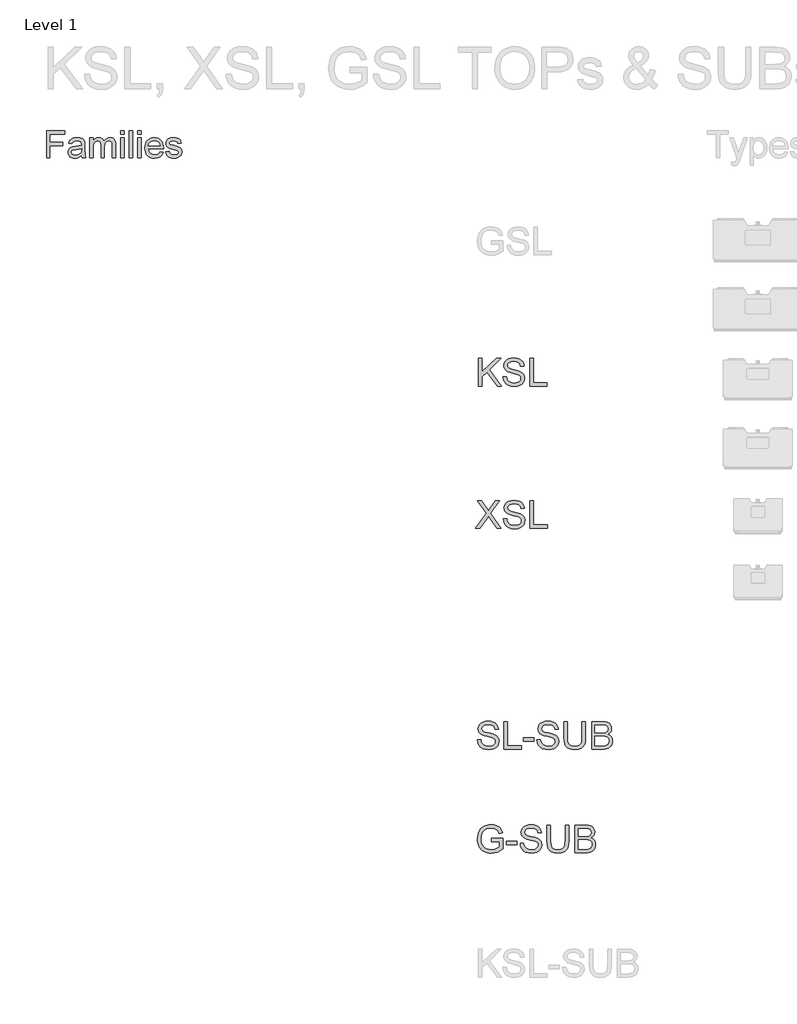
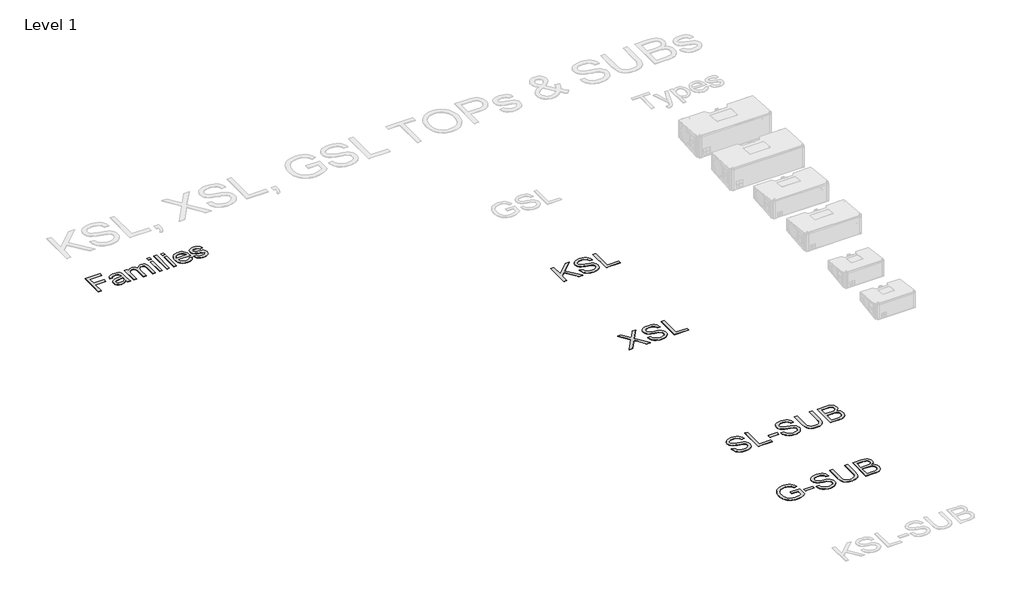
# One storey, part 45 of 52: 5 proxies.
"""IFC4 building model written with IfcOpenShell, lengths in millimetres."""

from ifc_helpers import new_model, si_unit, origin, origin_with_axes, place, context, project, spatial, polyline, outline, extrude, element, save

model = new_model("IFC4")

# Units and contexts
model_context = context("Model", 3, world=origin())
ifc_project = project(units=[si_unit("LENGTHUNIT", "METRE", prefix="MILLI")], contexts=[model_context])

# Site, building, storey
site = spatial("IfcSite", under=ifc_project)
building = spatial("IfcBuilding", under=site)
storey = spatial("IfcBuildingStorey", under=building, Name="Level 1", Elevation=0.0)

# Proxies
placement = place(None, origin())
element("IfcBuildingElementProxy", 1, Name="400mm Arial", ObjectType="400mm Arial", at=placement, inside=storey, context=model_context, shape_type="SweptSolid", body=[
    extrude(outline(polyline([(-21056.720891, 17351.3054836), (-21056.720891, 17743.0630593), (-20793.5087698, 17743.0630593), (-20793.5087698, 17694.0933624), (-21007.7511941, 17694.0933624), (-21007.7511941, 17577.7903321), (-20824.1148304, 17577.7903321), (-20824.1148304, 17528.8206351), (-21007.7511941, 17528.8206351), (-21007.7511941, 17351.3054836), (-21056.720891, 17351.3054836)])), origin_with_axes(), (0.0, 0.0, 1.0), 5.0),
    extrude(outline(polyline([(-20548.660285, 17388.0327563), (-20572.0571836, 17367.97144), (-20596.1475009, 17354.8443093), (-20621.4811893, 17347.5992809), (-20648.6082016, 17345.1842715), (-20670.4120309, 17346.6368638), (-20689.5318522, 17350.9946408), (-20705.9676654, 17358.2576024), (-20719.7194706, 17368.4257487), (-20730.5780466, 17380.8534831), (-20738.3341723, 17394.895209), (-20742.9878477, 17410.5509263), (-20744.5390729, 17427.8206351), (-20742.1957963, 17448.1210612), (-20735.1659668, 17466.5564305), (-20724.3223352, 17482.3376805), (-20710.5376524, 17494.6757487), (-20676.2493001, 17510.7439305), (-20633.879035, 17518.1085139), (-20583.8094327, 17525.855673), (-20548.9472168, 17534.9418472), (-20548.660285, 17545.8452563), (-20552.0317338, 17567.6998965), (-20562.1460804, 17581.9986654), (-20584.7658721, 17592.6151427), (-20616.2805501, 17596.1539684), (-20645.4519516, 17593.7987364), (-20665.8241107, 17586.7330404), (-20679.7163929, 17573.6656872), (-20689.4481638, 17553.3054836), (-20738.4178607, 17559.4266957), (-20729.9175056, 17586.2069987), (-20717.2327282, 17607.2486654), (-20699.1799346, 17623.3407582), (-20674.5755312, 17635.2723396), (-20644.4835568, 17642.660834), (-20609.9680501, 17645.1236654), (-20576.8632916, 17642.9477658), (-20550.6209857, 17636.4200669), (-20530.8346458, 17626.6046076), (-20517.097785, 17614.5654268), (-20507.9876997, 17599.6808387), (-20502.0816865, 17581.3291578), (-20499.690588, 17538.480673), (-20499.690588, 17477.5554836), (-20497.2038456, 17392.4801995), (-20487.4481638, 17351.3054836), (-20536.4178607, 17351.3054836), (-20544.2606638, 17368.3301048), (-20548.660285, 17388.0327563)]), holes=[polyline([(-20548.660285, 17485.9721502), (-20581.5618001, 17477.8185044), (-20627.6621789, 17470.9560518), (-20669.7933342, 17463.0176048), (-20680.7565208, 17457.5898112), (-20688.8743001, 17450.105673), (-20693.8956069, 17441.1390536), (-20695.5693759, 17431.2638169), (-20691.9229507, 17416.7020271), (-20680.9836751, 17404.7704457), (-20662.990659, 17396.8080877), (-20638.1830122, 17394.1539684), (-20611.8809289, 17397.0830641), (-20588.6394516, 17405.870351), (-20569.7975956, 17418.8181493), (-20556.6943759, 17434.228779), (-20550.8840066, 17450.105673), (-20548.9472168, 17472.103779), (-20548.660285, 17485.9721502)])]), origin_with_axes(), (0.0, 0.0, 1.0), 5.0),
    extrude(outline(polyline([(-20432.3572547, 17351.3054836), (-20432.3572547, 17639.0024533), (-20383.3875577, 17639.0024533), (-20383.3875577, 17591.6587033), (-20368.658391, 17613.405744), (-20349.720891, 17630.4423207), (-20327.2206543, 17641.4533292), (-20301.8032774, 17645.1236654), (-20274.5686657, 17641.3815963), (-20252.7379365, 17630.1553889), (-20236.4306448, 17612.1862838), (-20225.7663456, 17588.2155215), (-20207.9167954, 17613.1128344), (-20187.5565918, 17630.8966294), (-20164.6857348, 17641.5669064), (-20139.3042244, 17645.1236654), (-20119.7002057, 17643.6441732), (-20102.4932632, 17639.2056966), (-20087.683397, 17631.8082357), (-20075.2706069, 17621.4517904), (-20065.4581365, 17608.0168058), (-20058.4492291, 17591.3837269), (-20054.2438846, 17571.5525539), (-20052.8421032, 17548.5232866), (-20052.8421032, 17351.3054836), (-20101.8118001, 17351.3054836), (-20101.8118001, 17527.4816199), (-20106.3548872, 17568.369404), (-20112.7391202, 17579.6434334), (-20122.8056448, 17588.5024533), (-20135.7534431, 17594.2410896), (-20150.7814971, 17596.1539684), (-20177.3107348, 17591.2522165), (-20198.9382206, 17576.5469608), (-20207.3279874, 17565.2669537), (-20213.320678, 17551.03394), (-20218.1148304, 17513.7088927), (-20218.1148304, 17351.3054836), (-20267.0845274, 17351.3054836), (-20267.0845274, 17532.9333245), (-20269.9179791, 17560.6222449), (-20278.4183342, 17580.3727184), (-20293.3746552, 17592.2086559), (-20315.5760047, 17596.1539684), (-20334.4417717, 17593.5237601), (-20351.8250577, 17585.6331351), (-20366.1716486, 17572.6733813), (-20375.9273304, 17554.8357866), (-20381.5225009, 17530.0879173), (-20383.3875577, 17496.3973396), (-20383.3875577, 17351.3054836), (-20432.3572547, 17351.3054836)])), origin_with_axes(), (0.0, 0.0, 1.0), 5.0),
    extrude(outline(polyline([(-19979.3875577, 17351.3054836), (-19979.3875577, 17639.0024533), (-19930.4178607, 17639.0024533), (-19930.4178607, 17351.3054836), (-19979.3875577, 17351.3054836)])), origin_with_axes(), (0.0, 0.0, 1.0), 5.0),
    extrude(outline(polyline([(-19979.3875577, 17694.0933624), (-19979.3875577, 17743.0630593), (-19930.4178607, 17743.0630593), (-19930.4178607, 17694.0933624), (-19979.3875577, 17694.0933624)])), origin_with_axes(), (0.0, 0.0, 1.0), 5.0),
    extrude(outline(polyline([(-19856.9633153, 17351.3054836), (-19856.9633153, 17743.0630593), (-19807.9936183, 17743.0630593), (-19807.9936183, 17351.3054836), (-19856.9633153, 17351.3054836)])), origin_with_axes(), (0.0, 0.0, 1.0), 5.0),
    extrude(outline(polyline([(-19734.5390729, 17351.3054836), (-19734.5390729, 17639.0024533), (-19685.5693759, 17639.0024533), (-19685.5693759, 17351.3054836), (-19734.5390729, 17351.3054836)])), origin_with_axes(), (0.0, 0.0, 1.0), 5.0),
    extrude(outline(polyline([(-19734.5390729, 17694.0933624), (-19734.5390729, 17743.0630593), (-19685.5693759, 17743.0630593), (-19685.5693759, 17694.0933624), (-19734.5390729, 17694.0933624)])), origin_with_axes(), (0.0, 0.0, 1.0), 5.0),
    extrude(outline(polyline([(-19410.6886941, 17437.0024533), (-19362.6754365, 17430.8812411), (-19370.0370309, 17411.6508316), (-19379.975034, 17394.7039211), (-19392.4894457, 17380.0405096), (-19407.580266, 17367.6605972), (-19425.0920736, 17357.8272047), (-19444.8694469, 17350.8033529), (-19491.220891, 17345.1842715), (-19521.605775, 17347.6082475), (-19548.6789876, 17354.8801758), (-19572.4405288, 17367.0000563), (-19592.8903986, 17383.9678889), (-19609.3351784, 17405.3114317), (-19621.0814497, 17430.5584429), (-19628.1292125, 17459.7089223), (-19630.4784668, 17492.7628699), (-19628.1053015, 17526.937645), (-19620.9858058, 17557.0595082), (-19609.1199796, 17583.1284594), (-19592.5078229, 17605.1444987), (-19572.1117528, 17622.6353841), (-19548.8941865, 17635.1288737), (-19522.855124, 17642.6249675), (-19493.9945653, 17645.1236654), (-19466.0635461, 17642.6309452), (-19440.8045795, 17635.1527847), (-19418.2176654, 17622.6891839), (-19398.3028039, 17605.2401427), (-19382.0463231, 17583.2719253), (-19370.4345511, 17557.2507961), (-19363.4674879, 17527.1767549), (-19361.1451335, 17493.0498018), (-19361.4320653, 17479.8509381), (-19581.5087698, 17479.8509381), (-19578.6723292, 17460.3096858), (-19573.0323257, 17443.1953983), (-19564.5887592, 17428.5080759), (-19553.3416297, 17416.2477184), (-19524.9234242, 17399.6774059), (-19490.2644516, 17394.1539684), (-19464.2014782, 17396.7124438), (-19442.2511941, 17404.3878699), (-19424.4135994, 17417.6584665), (-19410.6886941, 17437.0024533)]), holes=[polyline([(-19581.5087698, 17528.8206351), (-19410.1148304, 17528.8206351), (-19416.7381732, 17554.6923207), (-19429.721838, 17573.199423), (-19443.076123, 17583.2420366), (-19458.2715539, 17590.4153321), (-19494.1858532, 17596.1539684), (-19527.1949677, 17591.5750148), (-19554.4893569, 17577.838154), (-19573.4627234, 17556.4258671), (-19581.5087698, 17528.8206351)])]), origin_with_axes(), (0.0, 0.0, 1.0), 5.0),
    extrude(outline(polyline([(-19330.5390729, 17437.0024533), (-19281.5693759, 17443.1236654), (-19273.8461278, 17422.1776427), (-19258.9017622, 17406.7789684), (-19236.6406354, 17397.3102184), (-19206.9671032, 17394.1539684), (-19177.6522357, 17397.0471976), (-19157.0409668, 17405.7268851), (-19144.8463645, 17418.3040631), (-19140.7814971, 17432.8897639), (-19144.8702755, 17445.371298), (-19157.1366107, 17454.8878699), (-19207.5409668, 17468.8518851), (-19281.2824441, 17492.8106919), (-19299.9449677, 17504.8498728), (-19313.4666297, 17520.7865442), (-19321.680053, 17539.6044893), (-19324.4178607, 17560.2874911), (-19322.2180501, 17579.2608576), (-19315.6186183, 17596.775654), (-19305.2173399, 17612.1384618), (-19291.6119895, 17624.6558624), (-19260.4798872, 17639.1459192), (-19218.3487319, 17645.1236654), (-19186.4753891, 17642.7206114), (-19158.7625577, 17635.5114495), (-19136.4775198, 17624.2015536), (-19120.8875577, 17609.496298), (-19110.5580122, 17590.3077326), (-19104.0542244, 17565.5479078), (-19153.0239213, 17559.4266957), (-19159.2049109, 17574.8373254), (-19171.4353797, 17586.4461086), (-19189.8348825, 17593.7270035), (-19214.5229744, 17596.1539684), (-19242.6422925, 17593.8346029), (-19261.3885047, 17586.8765063), (-19271.933249, 17576.8338927), (-19275.4481638, 17565.260976), (-19269.6138835, 17551.010029), (-19251.345891, 17540.2022639), (-19209.1669138, 17529.7770745), (-19137.2904933, 17506.7268851), (-19118.3051713, 17495.7039211), (-19103.9107585, 17480.6160896), (-19094.8365397, 17461.4155688), (-19091.8118001, 17438.0545366), (-19095.3625814, 17413.9044419), (-19106.0149251, 17391.1890063), (-19123.3623446, 17371.6895982), (-19146.9983532, 17357.1875858), (-19175.5480691, 17348.1851), (-19207.6366107, 17345.1842715), (-19233.9924938, 17346.630886), (-19257.0127944, 17350.9707298), (-19276.6975127, 17358.2038027), (-19293.0466486, 17368.3301048), (-19306.4009336, 17381.3018141), (-19317.1010994, 17397.0711086), (-19325.1471458, 17415.6379883), (-19330.5390729, 17437.0024533)])), origin_with_axes(), (0.0, 0.0, 1.0), 5.0),
])
element("IfcBuildingElementProxy", 2, Name="400mm Arial", ObjectType="400mm Arial", at=placement, inside=storey, context=model_context, shape_type="SweptSolid", body=[
    extrude(outline(polyline([(-14791.5308561, 14043.8997901), (-14791.5308561, 14445.7250307), (-14741.302701, 14445.7250307), (-14741.302701, 14249.0307906), (-14535.2887837, 14445.7250307), (-14465.0478481, 14445.7250307), (-14638.0014368, 14280.5214894), (-14458.7693287, 14043.8997901), (-14520.1810964, 14043.8997901), (-14673.6124139, 14246.578244), (-14741.302701, 14182.0272165), (-14741.302701, 14043.8997901), (-14791.5308561, 14043.8997901)])), origin_with_axes(), (0.0, 0.0, 1.0), 5.0),
    extrude(outline(polyline([(-14439.9337706, 14182.0272165), (-14389.7056155, 14182.0272165), (-14383.9421309, 14154.154024), (-14373.5188077, 14131.7500105), (-14357.2584235, 14113.9690474), (-14333.983756, 14099.9650062), (-14305.534215, 14090.8783209), (-14273.7492106, 14087.8494258), (-14245.7656535, 14090.1425569), (-14221.2647126, 14097.0219502), (-14201.4113476, 14107.9112573), (-14187.3705181, 14122.2341296), (-14179.0195968, 14138.6784548), (-14176.2359564, 14155.9321204), (-14178.3206211, 14172.7443275), (-14184.574615, 14187.2756663), (-14197.2788065, 14199.6732896), (-14218.7140641, 14210.08435), (-14291.8490048, 14229.2632647), (-14339.8576051, 14241.9551936), (-14370.5757517, 14254.0339857), (-14395.5794647, 14270.932032), (-14413.2991141, 14291.4107964), (-14423.8573274, 14315.0288205), (-14427.3767318, 14341.3446459), (-14423.0234615, 14370.7629428), (-14409.9636507, 14398.1946769), (-14388.5406558, 14421.444819), (-14359.0978335, 14438.3183399), (-14323.7566365, 14448.5822475), (-14284.6385177, 14452.0035501), (-14242.2585118, 14448.422832), (-14205.1760067, 14437.6806777), (-14174.7153775, 14419.9978165), (-14152.2009994, 14395.5949775), (-14137.9517035, 14365.9927396), (-14132.2863207, 14332.7116818), (-14182.5144758, 14332.7116818), (-14191.7360511, 14362.6818016), (-14200.0992352, 14374.5398646), (-14210.9640168, 14384.313263), (-14241.007713, 14397.409862), (-14282.6764804, 14401.775395), (-14325.3262663, 14397.4589129), (-14341.6295701, 14392.0633103), (-14354.5851477, 14384.5094667), (-14371.5077195, 14365.4531793), (-14377.1485767, 14342.8161739), (-14373.1509257, 14323.5146319), (-14361.1579727, 14307.9900117), (-14332.8065336, 14294.1085977), (-14279.1448132, 14279.9328782), (-14223.7663102, 14266.4683972), (-14190.2645232, 14254.7206988), (-14161.6310412, 14236.4982773), (-14141.6550489, 14214.0084247), (-14129.9196132, 14187.4963955), (-14126.0078013, 14157.2074446), (-14130.5082244, 14126.2440433), (-14144.0094936, 14097.1200521), (-14165.959786, 14072.0550255), (-14195.8072786, 14053.2685182), (-14231.7002986, 14041.5330826), (-14271.7871733, 14037.6212707), (-14320.9975215, 14041.8396509), (-14361.5013292, 14054.4947916), (-14393.7645802, 14075.6357435), (-14418.2532583, 14105.3115578), (-14433.9740822, 14141.4620952), (-14439.9337706, 14182.0272165)])), origin_with_axes(), (0.0, 0.0, 1.0), 5.0),
    extrude(outline(polyline([(-14050.6655687, 14043.8997901), (-14050.6655687, 14445.7250307), (-14000.4374137, 14445.7250307), (-14000.4374137, 14094.1279452), (-13799.5247934, 14094.1279452), (-13799.5247934, 14043.8997901), (-14050.6655687, 14043.8997901)])), origin_with_axes(), (0.0, 0.0, 1.0), 5.0),
])
element("IfcBuildingElementProxy", 3, Name="400mm Arial", ObjectType="400mm Arial", at=placement, inside=storey, context=model_context, shape_type="SweptSolid", body=[
    extrude(outline(polyline([(-14835.4804918, 11981.029306), (-14680.5776463, 12199.9926695), (-14810.3664142, 12382.8545466), (-14750.1318689, 12382.8545466), (-14677.0459792, 12279.9456898), (-14652.422411, 12239.8220268), (-14623.5804626, 12280.6324028), (-14551.2793878, 12382.8545466), (-14490.1619256, 12382.8545466), (-14619.9506935, 12199.4040583), (-14465.0478481, 11981.029306), (-14525.2823934, 11981.029306), (-14628.4855558, 12126.6124742), (-14649.9698643, 12156.8278487), (-14673.6124139, 12123.6694182), (-14774.3630296, 11981.029306), (-14835.4804918, 11981.029306)])), origin_with_axes(), (0.0, 0.0, 1.0), 5.0),
    extrude(outline(polyline([(-14433.6552512, 12119.1567324), (-14383.4270961, 12119.1567324), (-14377.6636115, 12091.2835399), (-14367.2402883, 12068.8795264), (-14350.9799041, 12051.0985633), (-14327.7052366, 12037.094522), (-14299.2556956, 12028.0078368), (-14267.4706912, 12024.9789417), (-14239.4871341, 12027.2720728), (-14214.9861932, 12034.1514661), (-14195.1328282, 12045.0407731), (-14181.0919988, 12059.3636455), (-14172.7410775, 12075.8079707), (-14169.957437, 12093.0616362), (-14172.0421017, 12109.8738434), (-14178.2960956, 12124.4051822), (-14191.0002872, 12136.8028055), (-14212.4355447, 12147.2138659), (-14285.5704854, 12166.3927806), (-14333.5790858, 12179.0847094), (-14364.2972324, 12191.1635016), (-14389.3009453, 12208.0615479), (-14407.0205947, 12228.5403123), (-14417.578808, 12252.1583364), (-14421.0982124, 12278.4741618), (-14416.7449421, 12307.8924587), (-14403.6851313, 12335.3241928), (-14382.2621365, 12358.5743349), (-14352.8193141, 12375.4478557), (-14317.4781171, 12385.7117634), (-14278.3599983, 12389.133066), (-14235.9799924, 12385.5523479), (-14198.8974873, 12374.8101936), (-14168.4368581, 12357.1273324), (-14145.92248, 12332.7244934), (-14131.6731841, 12303.1222555), (-14126.0078013, 12269.8411976), (-14176.2359564, 12269.8411976), (-14185.4575318, 12299.8113175), (-14193.8207158, 12311.6693805), (-14204.6854974, 12321.4427788), (-14234.7291937, 12334.5393779), (-14276.397961, 12338.9049109), (-14319.0477469, 12334.5884288), (-14335.3510507, 12329.1928262), (-14348.3066283, 12321.6389826), (-14365.2292001, 12302.5826952), (-14370.8700573, 12279.9456898), (-14366.8724063, 12260.6441478), (-14354.8794533, 12245.1195276), (-14326.5280142, 12231.2381136), (-14272.8662938, 12217.0623941), (-14217.4877908, 12203.5979131), (-14183.9860038, 12191.8502147), (-14155.3525218, 12173.6277932), (-14135.3765295, 12151.1379405), (-14123.6410938, 12124.6259114), (-14119.729282, 12094.3369605), (-14124.229705, 12063.3735592), (-14137.7309743, 12034.2495679), (-14159.6812666, 12009.1845413), (-14189.5287592, 11990.3980341), (-14225.4217792, 11978.6625985), (-14265.5086539, 11974.7507866), (-14314.7190021, 11978.9691668), (-14355.2228098, 11991.6243074), (-14387.4860608, 12012.7652594), (-14411.9747389, 12042.4410737), (-14427.6955629, 12078.5916111), (-14433.6552512, 12119.1567324)])), origin_with_axes(), (0.0, 0.0, 1.0), 5.0),
    extrude(outline(polyline([(-14044.3870493, 11981.029306), (-14044.3870493, 12382.8545466), (-13994.1588943, 12382.8545466), (-13994.1588943, 12031.257461), (-13793.246274, 12031.257461), (-13793.246274, 11981.029306), (-14044.3870493, 11981.029306)])), origin_with_axes(), (0.0, 0.0, 1.0), 5.0),
])
element("IfcBuildingElementProxy", 4, Name="400mm Arial", ObjectType="400mm Arial", at=placement, inside=storey, context=model_context, shape_type="SweptSolid", body=[
    extrude(outline(polyline([(-14810.3664142, 8919.1567324), (-14760.1382592, 8919.1567324), (-14754.3747746, 8891.2835399), (-14743.9514514, 8868.8795264), (-14727.6910672, 8851.0985633), (-14704.4163996, 8837.094522), (-14675.9668587, 8828.0078368), (-14644.1818543, 8824.9789417), (-14616.1982972, 8827.2720728), (-14591.6973563, 8834.1514661), (-14571.8439913, 8845.0407731), (-14557.8031618, 8859.3636455), (-14549.4522405, 8875.8079707), (-14546.6686001, 8893.0616362), (-14548.7532647, 8909.8738434), (-14555.0072587, 8924.4051822), (-14567.7114502, 8936.8028055), (-14589.1467078, 8947.2138659), (-14662.2816484, 8966.3927806), (-14710.2902488, 8979.0847094), (-14741.0083954, 8991.1635016), (-14766.0121084, 9008.0615479), (-14783.7317578, 9028.5403123), (-14794.289971, 9052.1583364), (-14797.8093755, 9078.4741618), (-14793.4561052, 9107.8924587), (-14780.3962944, 9135.3241928), (-14758.9732995, 9158.5743349), (-14729.5304772, 9175.4478557), (-14694.1892802, 9185.7117634), (-14655.0711613, 9189.133066), (-14612.6911555, 9185.5523479), (-14575.6086504, 9174.8101936), (-14545.1480212, 9157.1273324), (-14522.6336431, 9132.7244934), (-14508.3843471, 9103.1222555), (-14502.7189644, 9069.8411976), (-14552.9471195, 9069.8411976), (-14562.1686948, 9099.8113175), (-14570.5318788, 9111.6693805), (-14581.3966604, 9121.4427788), (-14611.4403567, 9134.5393779), (-14653.109124, 9138.9049109), (-14695.75891, 9134.5884288), (-14712.0622138, 9129.1928262), (-14725.0177914, 9121.6389826), (-14741.9403631, 9102.5826952), (-14747.5812204, 9079.9456898), (-14743.5835694, 9060.6441478), (-14731.5906163, 9045.1195276), (-14703.2391772, 9031.2381136), (-14649.5774569, 9017.0623941), (-14594.1989539, 9003.5979131), (-14560.6971668, 8991.8502147), (-14532.0636849, 8973.6277932), (-14512.0876925, 8951.1379405), (-14500.3522569, 8924.6259114), (-14496.440445, 8894.3369605), (-14500.9408681, 8863.3735592), (-14514.4421373, 8834.2495679), (-14536.3924297, 8809.1845413), (-14566.2399222, 8790.3980341), (-14602.1329422, 8778.6625985), (-14642.219817, 8774.7507866), (-14691.4301652, 8778.9691668), (-14731.9339729, 8791.6243074), (-14764.1972238, 8812.7652594), (-14788.685902, 8842.4410737), (-14804.4067259, 8878.5916111), (-14810.3664142, 8919.1567324)])), origin_with_axes(), (0.0, 0.0, 1.0), 5.0),
    extrude(outline(polyline([(-14421.0982124, 8781.029306), (-14421.0982124, 9182.8545466), (-14370.8700573, 9182.8545466), (-14370.8700573, 8831.257461), (-14169.957437, 8831.257461), (-14169.957437, 8781.029306), (-14421.0982124, 8781.029306)])), origin_with_axes(), (0.0, 0.0, 1.0), 5.0),
    extrude(outline(polyline([(-14144.8433595, 8900.3211743), (-14144.8433595, 8950.5493293), (-13987.8803749, 8950.5493293), (-13987.8803749, 8900.3211743), (-14144.8433595, 8900.3211743)])), origin_with_axes(), (0.0, 0.0, 1.0), 5.0),
    extrude(outline(polyline([(-13943.9307392, 8919.1567324), (-13893.7025841, 8919.1567324), (-13887.9390995, 8891.2835399), (-13877.5157763, 8868.8795264), (-13861.2553921, 8851.0985633), (-13837.9807246, 8837.094522), (-13809.5311836, 8828.0078368), (-13777.7461792, 8824.9789417), (-13749.7626221, 8827.2720728), (-13725.2616813, 8834.1514661), (-13705.4083163, 8845.0407731), (-13691.3674868, 8859.3636455), (-13683.0165655, 8875.8079707), (-13680.2329251, 8893.0616362), (-13682.3175897, 8909.8738434), (-13688.5715836, 8924.4051822), (-13701.2757752, 8936.8028055), (-13722.7110328, 8947.2138659), (-13795.8459734, 8966.3927806), (-13843.8545738, 8979.0847094), (-13874.5727204, 8991.1635016), (-13899.5764333, 9008.0615479), (-13917.2960827, 9028.5403123), (-13927.854296, 9052.1583364), (-13931.3737004, 9078.4741618), (-13927.0204302, 9107.8924587), (-13913.9606193, 9135.3241928), (-13892.5376245, 9158.5743349), (-13863.0948021, 9175.4478557), (-13827.7536051, 9185.7117634), (-13788.6354863, 9189.133066), (-13746.2554805, 9185.5523479), (-13709.1729753, 9174.8101936), (-13678.7123461, 9157.1273324), (-13656.197968, 9132.7244934), (-13641.9486721, 9103.1222555), (-13636.2832894, 9069.8411976), (-13686.5114444, 9069.8411976), (-13695.7330198, 9099.8113175), (-13704.0962038, 9111.6693805), (-13714.9609854, 9121.4427788), (-13745.0046817, 9134.5393779), (-13786.673449, 9138.9049109), (-13829.323235, 9134.5884288), (-13845.6265387, 9129.1928262), (-13858.5821163, 9121.6389826), (-13875.5046881, 9102.5826952), (-13881.1455454, 9079.9456898), (-13877.1478943, 9060.6441478), (-13865.1549413, 9045.1195276), (-13836.8035022, 9031.2381136), (-13783.1417818, 9017.0623941), (-13727.7632788, 9003.5979131), (-13694.2614918, 8991.8502147), (-13665.6280098, 8973.6277932), (-13645.6520175, 8951.1379405), (-13633.9165819, 8924.6259114), (-13630.00477, 8894.3369605), (-13634.5051931, 8863.3735592), (-13648.0064623, 8834.2495679), (-13669.9567547, 8809.1845413), (-13699.8042472, 8790.3980341), (-13735.6972672, 8778.6625985), (-13775.7841419, 8774.7507866), (-13824.9944902, 8778.9691668), (-13865.4982978, 8791.6243074), (-13897.7615488, 8812.7652594), (-13922.2502269, 8842.4410737), (-13937.9710509, 8878.5916111), (-13943.9307392, 8919.1567324)])), origin_with_axes(), (0.0, 0.0, 1.0), 5.0),
    extrude(outline(polyline([(-13290.9647232, 9182.8545466), (-13240.7365682, 9182.8545466), (-13240.7365682, 8951.0398387), (-13244.145608, 8896.7527189), (-13254.3727274, 8854.9490615), (-13262.5581018, 8837.9958329), (-13273.4780657, 8822.6980733), (-13303.521762, 8797.068961), (-13322.6638885, 8787.3047597), (-13344.5773927, 8780.3303302), (-13396.7185341, 8774.7507866), (-13447.7192414, 8779.6068289), (-13488.4928292, 8794.1749559), (-13505.047519, 8804.9753582), (-13519.0515602, 8817.9523956), (-13530.504953, 8833.1060681), (-13539.4076973, 8850.4363757), (-13550.8488274, 8894.0058667), (-13554.6625374, 8951.0398387), (-13554.6625374, 9182.8545466), (-13504.4343823, 9182.8545466), (-13504.4343823, 8952.8056722), (-13501.9573102, 8907.6665514), (-13494.5260939, 8876.2371663), (-13481.0616129, 8854.4708149), (-13460.4847466, 8838.3207954), (-13433.6538864, 8828.3144051), (-13401.4274236, 8824.9789417), (-13373.7443035, 8826.6282793), (-13350.3408772, 8831.5762921), (-13331.2171449, 8839.8229802), (-13316.3731064, 8851.3683434), (-13305.2569387, 8867.6042022), (-13297.316819, 8889.9223765), (-13292.5527472, 8918.3228666), (-13290.9647232, 8952.8056722), (-13290.9647232, 9182.8545466)])), origin_with_axes(), (0.0, 0.0, 1.0), 5.0),
    extrude(outline(polyline([(-13152.8372968, 8781.029306), (-13152.8372968, 9182.8545466), (-12999.5040812, 9182.8545466), (-12957.3325418, 9179.8992279), (-12924.4071032, 9171.0332718), (-12899.1703984, 9156.0359491), (-12880.0650601, 9134.6865307), (-12868.0353188, 9109.5724531), (-12864.0254051, 9083.2811532), (-12867.3976567, 9059.0867807), (-12877.5144116, 9036.3394106), (-12894.4492461, 9016.4369947), (-12918.2757366, 9000.7774844), (-12889.813933, 8985.9150518), (-12868.7833456, 8963.3025718), (-12855.7971111, 8934.436098), (-12851.4683663, 8900.8116836), (-12854.423685, 8872.7913383), (-12863.2896411, 8846.8066067), (-12876.5211302, 8824.7091615), (-12892.5730479, 8808.3506755), (-12912.2302092, 8796.5048752), (-12936.2774289, 8787.9454875), (-12965.4995221, 8782.7583513), (-13000.6813036, 8781.029306), (-13152.8372968, 8781.029306)]), holes=[polyline([(-13102.6091417, 8831.257461), (-12999.602183, 8831.257461), (-12962.3234742, 8833.2194984), (-12930.7837245, 8844.1578563), (-12919.2077044, 8853.5878982), (-12909.8880272, 8866.4760307), (-12903.7443978, 8882.2459056), (-12901.6965214, 8900.3211743), (-12904.1000171, 8921.3149735), (-12911.3105042, 8939.3657167), (-12923.9043312, 8953.4801226), (-12942.4578465, 8962.6649097), (-12968.7368837, 8967.7048931), (-13004.5072763, 8969.3848875), (-13102.6091417, 8969.3848875), (-13102.6091417, 8831.257461)]), polyline([(-13102.6091417, 9019.6130426), (-13010.8838976, 9019.6130426), (-12957.3202791, 9023.9295247), (-12938.57056, 9031.3730037), (-12925.0938163, 9042.5198281), (-12916.9636242, 9057.1983197), (-12914.2535602, 9075.2368002), (-12916.7796832, 9092.7479832), (-12924.3580523, 9108.0028233), (-12936.6453109, 9119.9099372), (-12953.2981026, 9127.3779417), (-12978.8536385, 9131.314279), (-13017.84913, 9132.6263915), (-13102.6091417, 9132.6263915), (-13102.6091417, 9019.6130426)])]), origin_with_axes(), (0.0, 0.0, 1.0), 5.0),
])
element("IfcBuildingElementProxy", 5, Name="400mm Arial", ObjectType="400mm Arial", at=placement, inside=storey, context=model_context, shape_type="SweptSolid", body=[
    extrude(outline(polyline([(-14603.1752746, 7437.9922906), (-14603.1752746, 7488.2204457), (-14439.9337706, 7488.2204457), (-14439.9337706, 7338.0264898), (-14479.6037124, 7310.4353401), (-14520.524453, 7290.6432888), (-14562.5978905, 7278.7239121), (-14605.7259231, 7274.7507866), (-14634.5770685, 7276.3296135), (-14662.073182, 7281.0660942), (-14688.2142634, 7288.9602286), (-14713.0003128, 7300.0120169), (-14735.6311869, 7314.0559121), (-14755.3067423, 7330.9263672), (-14772.026979, 7350.6233824), (-14785.791897, 7373.1469576), (-14796.5432483, 7397.7766571), (-14804.2227849, 7423.7920456), (-14808.8305069, 7451.1931228), (-14810.3664142, 7479.979889), (-14804.2473104, 7536.5724026), (-14796.5984306, 7563.3879343), (-14785.8899988, 7589.2163161), (-14772.3120875, 7612.923245), (-14756.054769, 7633.3744182), (-14737.1180433, 7650.5698358), (-14715.5019104, 7664.5094977), (-14691.6754199, 7675.2823088), (-14666.1076212, 7682.9771739), (-14638.7985144, 7687.5940929), (-14609.7480995, 7689.133066), (-14568.3736378, 7685.5646106), (-14531.1685054, 7674.8592445), (-14499.8372221, 7657.78952), (-14476.084308, 7635.1279891), (-14458.5118113, 7605.7832686), (-14445.7217806, 7568.6639753), (-14492.0258611, 7555.6164272), (-14502.3633451, 7582.0916681), (-14514.9326466, 7602.0676604), (-14531.5609128, 7617.1262968), (-14554.0752909, 7628.8494697), (-14580.9184138, 7636.3910506), (-14610.5329145, 7638.9049109), (-14645.1996611, 7636.1948468), (-14674.8386872, 7628.0646548), (-14699.3396281, 7615.5321414), (-14718.5921192, 7599.6151138), (-14733.3687126, 7581.1351749), (-14744.4419607, 7560.9139279), (-14756.2141845, 7522.9975569), (-14760.1382592, 7482.0400281), (-14755.4171069, 7434.0069023), (-14741.2536501, 7394.4841133), (-14718.0770844, 7363.753704), (-14686.3166055, 7342.0977172), (-14649.1482612, 7329.2586355), (-14609.7480995, 7324.9789417), (-14574.9587255, 7328.2040405), (-14541.0277428, 7337.879337), (-14511.560395, 7351.2089279), (-14490.1619256, 7365.3969102), (-14490.1619256, 7437.9922906), (-14603.1752746, 7437.9922906)])), origin_with_axes(), (0.0, 0.0, 1.0), 5.0),
    extrude(outline(polyline([(-14389.7056155, 7400.3211743), (-14389.7056155, 7450.5493293), (-14232.7426309, 7450.5493293), (-14232.7426309, 7400.3211743), (-14389.7056155, 7400.3211743)])), origin_with_axes(), (0.0, 0.0, 1.0), 5.0),
    extrude(outline(polyline([(-14188.7929952, 7419.1567324), (-14138.5648401, 7419.1567324), (-14132.8013555, 7391.2835399), (-14122.3780323, 7368.8795264), (-14106.1176481, 7351.0985633), (-14082.8429806, 7337.094522), (-14054.3934396, 7328.0078368), (-14022.6084352, 7324.9789417), (-13994.6248781, 7327.2720728), (-13970.1239373, 7334.1514661), (-13950.2705722, 7345.0407731), (-13936.2297428, 7359.3636455), (-13927.8788215, 7375.8079707), (-13925.095181, 7393.0616362), (-13927.1798457, 7409.8738434), (-13933.4338396, 7424.4051822), (-13946.1380312, 7436.8028055), (-13967.5732888, 7447.2138659), (-14040.7082294, 7466.3927806), (-14088.7168298, 7479.0847094), (-14119.4349764, 7491.1635016), (-14144.4386893, 7508.0615479), (-14162.1583387, 7528.5403123), (-14172.716552, 7552.1583364), (-14176.2359564, 7578.4741618), (-14171.8826861, 7607.8924587), (-14158.8228753, 7635.3241928), (-14137.3998805, 7658.5743349), (-14107.9570581, 7675.4478557), (-14072.6158611, 7685.7117634), (-14033.4977423, 7689.133066), (-13991.1177364, 7685.5523479), (-13954.0352313, 7674.8101936), (-13923.5746021, 7657.1273324), (-13901.060224, 7632.7244934), (-13886.8109281, 7603.1222555), (-13881.1455454, 7569.8411976), (-13931.3737004, 7569.8411976), (-13940.5952758, 7599.8113175), (-13948.9584598, 7611.6693805), (-13959.8232414, 7621.4427788), (-13989.8669377, 7634.5393779), (-14031.535705, 7638.9049109), (-14074.185491, 7634.5884288), (-14090.4887947, 7629.1928262), (-14103.4443723, 7621.6389826), (-14120.3669441, 7602.5826952), (-14126.0078013, 7579.9456898), (-14122.0101503, 7560.6441478), (-14110.0171973, 7545.1195276), (-14081.6657582, 7531.2381136), (-14028.0040378, 7517.0623941), (-13972.6255348, 7503.5979131), (-13939.1237478, 7491.8502147), (-13910.4902658, 7473.6277932), (-13890.5142735, 7451.1379405), (-13878.7788379, 7424.6259114), (-13874.867026, 7394.3369605), (-13879.367449, 7363.3735592), (-13892.8687183, 7334.2495679), (-13914.8190106, 7309.1845413), (-13944.6665032, 7290.3980341), (-13980.5595232, 7278.6625985), (-14020.6463979, 7274.7507866), (-14069.8567461, 7278.9691668), (-14110.3605538, 7291.6243074), (-14142.6238048, 7312.7652594), (-14167.1124829, 7342.4410737), (-14182.8333069, 7378.5916111), (-14188.7929952, 7419.1567324)])), origin_with_axes(), (0.0, 0.0, 1.0), 5.0),
    extrude(outline(polyline([(-13535.8269792, 7682.8545466), (-13485.5988241, 7682.8545466), (-13485.5988241, 7451.0398387), (-13489.007864, 7396.7527189), (-13499.2349834, 7354.9490615), (-13507.4203578, 7337.9958329), (-13518.3403217, 7322.6980733), (-13548.384018, 7297.068961), (-13567.5261445, 7287.3047597), (-13589.4396486, 7280.3303302), (-13641.5807901, 7274.7507866), (-13692.5814974, 7279.6068289), (-13733.3550852, 7294.1749559), (-13749.9097749, 7304.9753582), (-13763.9138162, 7317.9523956), (-13775.367209, 7333.1060681), (-13784.2699533, 7350.4363757), (-13795.7110833, 7394.0058667), (-13799.5247934, 7451.0398387), (-13799.5247934, 7682.8545466), (-13749.2966383, 7682.8545466), (-13749.2966383, 7452.8056722), (-13746.8195662, 7407.6665514), (-13739.3883499, 7376.2371663), (-13725.9238689, 7354.4708149), (-13705.3470026, 7338.3207954), (-13678.5161424, 7328.3144051), (-13646.2896796, 7324.9789417), (-13618.6065595, 7326.6282793), (-13595.2031332, 7331.5762921), (-13576.0794009, 7339.8229802), (-13561.2353623, 7351.3683434), (-13550.1191947, 7367.6042022), (-13542.179075, 7389.9223765), (-13537.4150032, 7418.3228666), (-13535.8269792, 7452.8056722), (-13535.8269792, 7682.8545466)])), origin_with_axes(), (0.0, 0.0, 1.0), 5.0),
    extrude(outline(polyline([(-13397.6995528, 7281.029306), (-13397.6995528, 7682.8545466), (-13244.3663372, 7682.8545466), (-13202.1947978, 7679.8992279), (-13169.2693592, 7671.0332718), (-13144.0326544, 7656.0359491), (-13124.9273161, 7634.6865307), (-13112.8975748, 7609.5724531), (-13108.8876611, 7583.2811532), (-13112.2599127, 7559.0867807), (-13122.3766676, 7536.3394106), (-13139.3115021, 7516.4369947), (-13163.1379926, 7500.7774844), (-13134.6761889, 7485.9150518), (-13113.6456016, 7463.3025718), (-13100.6593671, 7434.436098), (-13096.3306223, 7400.8116836), (-13099.285941, 7372.7913383), (-13108.1518971, 7346.8066067), (-13121.3833862, 7324.7091615), (-13137.4353039, 7308.3506755), (-13157.0924652, 7296.5048752), (-13181.1396849, 7287.9454875), (-13210.3617781, 7282.7583513), (-13245.5435596, 7281.029306), (-13397.6995528, 7281.029306)]), holes=[polyline([(-13347.4713977, 7331.257461), (-13244.464439, 7331.257461), (-13207.1857302, 7333.2194984), (-13175.6459805, 7344.1578563), (-13164.0699604, 7353.5878982), (-13154.7502831, 7366.4760307), (-13148.6066538, 7382.2459056), (-13146.5587774, 7400.3211743), (-13148.9622731, 7421.3149735), (-13156.1727602, 7439.3657167), (-13168.7665872, 7453.4801226), (-13187.3201025, 7462.6649097), (-13213.5991396, 7467.7048931), (-13249.3695323, 7469.3848875), (-13347.4713977, 7469.3848875), (-13347.4713977, 7331.257461)]), polyline([(-13347.4713977, 7519.6130426), (-13255.7461536, 7519.6130426), (-13202.1825351, 7523.9295247), (-13183.432816, 7531.3730037), (-13169.9560723, 7542.5198281), (-13161.8258802, 7557.1983197), (-13159.1158162, 7575.2368002), (-13161.6419392, 7592.7479832), (-13169.2203083, 7608.0028233), (-13181.5075669, 7619.9099372), (-13198.1603586, 7627.3779417), (-13223.7158945, 7631.314279), (-13262.711386, 7632.6263915), (-13347.4713977, 7632.6263915), (-13347.4713977, 7519.6130426)])]), origin_with_axes(), (0.0, 0.0, 1.0), 5.0),
])

save(model, "model.ifc")
